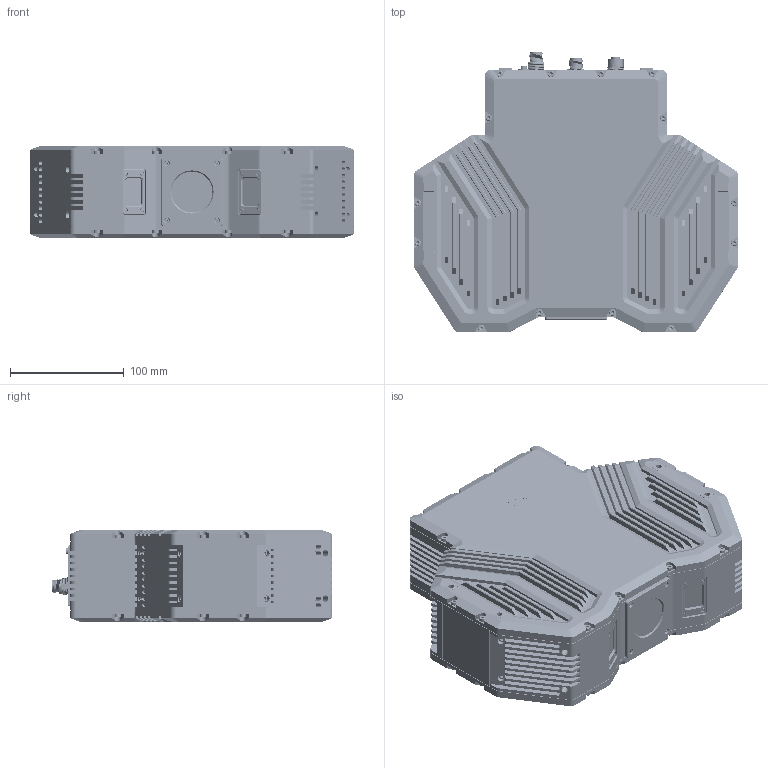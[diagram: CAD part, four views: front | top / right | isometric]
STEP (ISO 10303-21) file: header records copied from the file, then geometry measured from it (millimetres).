
FILE_DESCRIPTION((''),'2;1');
FILE_NAME('FPB1-008-200','2025-08-05T08:36:27',('OPT-YF-LDR'),(''),'CREO PARAMETRIC BY PTC INC, 2020354','CREO PARAMETRIC BY PTC INC, 2020354','');
FILE_SCHEMA(('AUTOMOTIVE_DESIGN { 1 0 10303 214 1 1 1 1 }'));
Products named in the file (1): FPB1-008-200
Bounding box: 285 x 246.53 x 81 mm (x, y, z)
Volume: 4042306.9 mm3; surface area: 326466.8 mm2
Topology: 1 solids, 214 shells, 6829 faces, 17081 edges, 10182 vertices
Faces by surface type: plane 3010, cylinder 1593, bspline 865, cone 754, extrusion 451, torus 124, sphere 32
Entity records: 429153 total; most frequent: CARTESIAN_POINT 174959, ORIENTED_EDGE 32722, DIRECTION 29656, PRESENTATION_STYLE_ASSIGNMENT 22871, STYLED_ITEM 17375, CURVE_STYLE 16786, EDGE_CURVE 16361, VERTEX_POINT 10182
